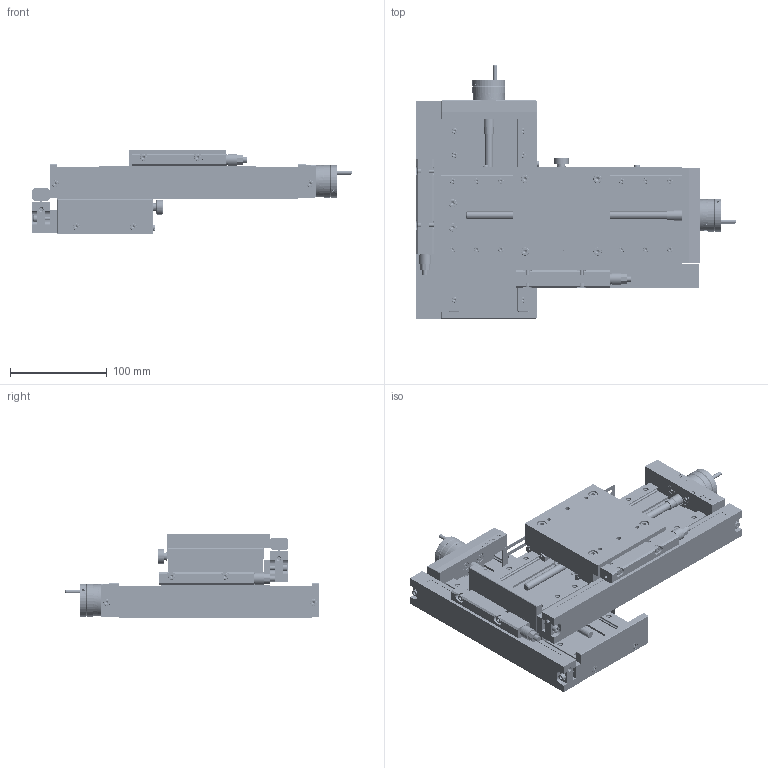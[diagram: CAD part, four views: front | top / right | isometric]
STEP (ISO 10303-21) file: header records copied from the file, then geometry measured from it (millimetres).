
FILE_DESCRIPTION(/* description */ ('Coulisses croisées 100x150'),/* implementation_level */ '2;1');
FILE_NAME(/* name */ 'S:\Bureau-Technique\Dispositif\MA 159-008-44.stp',/* time_stamp */ '2019-03-01T15:27:50+01:00',/* author */ ('ms'),/* organization */ ('Marcel Aubert'),/* preprocessor_version */ 'ST-DEVELOPER v17.2',/* originating_system */ 'Autodesk Inventor 2019',/* authorisation */ '');
FILE_SCHEMA (('CONFIG_CONTROL_DESIGN'));
Products named in the file (18): MA 159-008-44; MA 153-031-11; 347 010 023; 347 010 012; ISO 4762 - M5 x 16; ACL-031-12; Heidenhain-LS 487-ML 120; ACL-031-17; Heidenhain-LS 487-ML 170; Heidenhain-LS 487-curseur; CAB-153-030; PLQ-351-01; PLQ-352-02; PLQ-352-03; ISO 4762 - M5 x 16_1; ISO 4762 - M4 x 20; ISO 4762 - M4 x 16; ISO 4762 - M3 x 8
Assembly tree (34 placements, depth 3):
  MA 159-008-44
    MA 153-031-11
      347 010 023
      347 010 012
      ISO 4762 - M5 x 16  x4
    ACL-031-12
      Heidenhain-LS 487-ML 120
      Heidenhain-LS 487-curseur
    ACL-031-17
      Heidenhain-LS 487-ML 170
      Heidenhain-LS 487-curseur
    CAB-153-030  x2
    PLQ-351-01
    PLQ-352-02
    PLQ-352-03
    ISO 4762 - M5 x 16_1  x4
    ISO 4762 - M4 x 20  x6
    ISO 4762 - M4 x 16  x2
    ISO 4762 - M3 x 8  x4
Bounding box: 330.6 x 262.5 x 86 mm (x, y, z)
Volume: 1706397.4 mm3; surface area: 441937.4 mm2
Topology: 31 solids, 255 shells, 6606 faces, 18066 edges, 12290 vertices
Faces by surface type: plane 4102, cylinder 1342, cone 482, bspline 346, torus 306, sphere 28
Full cylindrical faces by diameter (mm): 2 x32, 2.459 x80, 2.7 x2, 2.729 x4, 3 x76, 3.1 x4, 3.2 x4, 3.242 x46, 3.4 x8, 3.5 x68, 4 x66, 4.1 x2, 4.134 x44, 4.3 x10, 4.5 x16, 4.6 x2, 4.917 x6, 5 x16, 5.5 x80, 6 x74, 6.5 x8, 6.917 x2, 7 x30, 7.5 x14, 8 x16, 8.5 x8, 9 x2, 10 x10, 10.6 x16, 10.9 x8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
Entity records: 281884 total; most frequent: CARTESIAN_POINT 114203, ORIENTED_EDGE 33902, DIRECTION 32871, EDGE_CURVE 16951, VERTEX_POINT 11708, AXIS2_PLACEMENT_3D 11468, LINE 9935, VECTOR 9935
